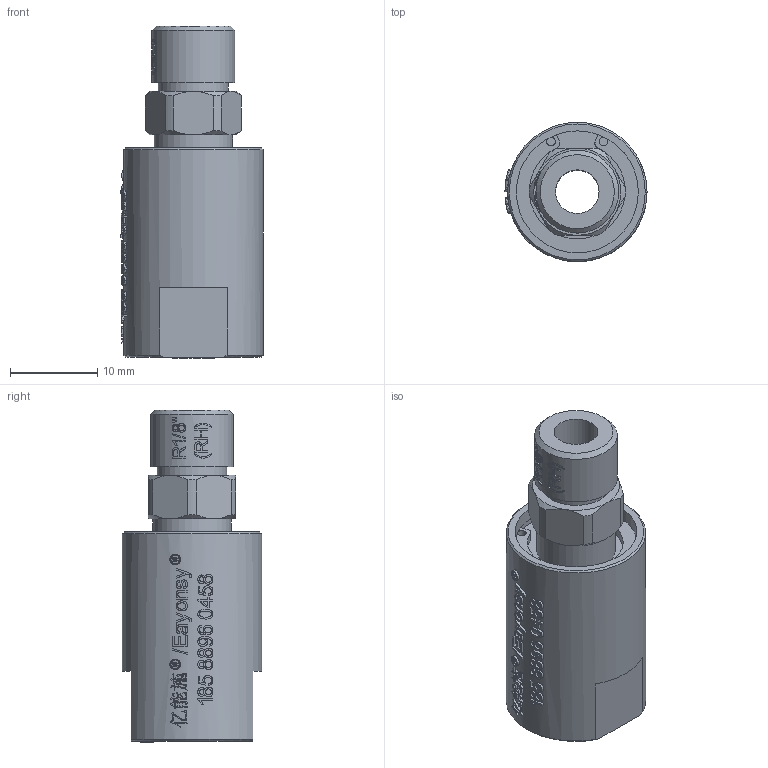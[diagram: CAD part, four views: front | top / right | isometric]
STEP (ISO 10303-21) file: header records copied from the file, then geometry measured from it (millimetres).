
FILE_DESCRIPTION(/* description */ (''),/* implementation_level */ '2;1');
FILE_NAME(/* name */ 'YQK0101(RH)-3D模型.stp',/* time_stamp */ '2025-07-08T14:24:04+08:00',/* author */ (''),/* organization */ (''),/* preprocessor_version */ 'ST-DEVELOPER v16.7',/* originating_system */ 'SIEMENS PLM Software NX 12.0',/* authorisation */ '');
FILE_SCHEMA (('AUTOMOTIVE_DESIGN { 1 0 10303 214 3 1 1 1 }'));
Products named in the file (1): Admi1E18C0B72127
Bounding box: 16.3 x 16 x 38.1 mm (x, y, z)
Volume: 4571.8 mm3; surface area: 3119.7 mm2
Topology: 1 solids, 1 shells, 1114 faces, 3074 edges, 2046 vertices
Faces by surface type: extrusion 675, plane 328, cylinder 52, bspline 43, cone 16
Full cylindrical faces by diameter (mm): 1 x2, 5 x1, 8 x1, 8.5 x1, 9 x1, 9.5 x1, 14 x1, 15 x1, 16 x1
Entity records: 45804 total; most frequent: CARTESIAN_POINT 22287, ORIENTED_EDGE 6112, B_SPLINE_CURVE_WITH_KNOTS 3182, EDGE_CURVE 3056, DIRECTION 2269, VERTEX_POINT 2040, EDGE_LOOP 1212, ADVANCED_FACE 1114
